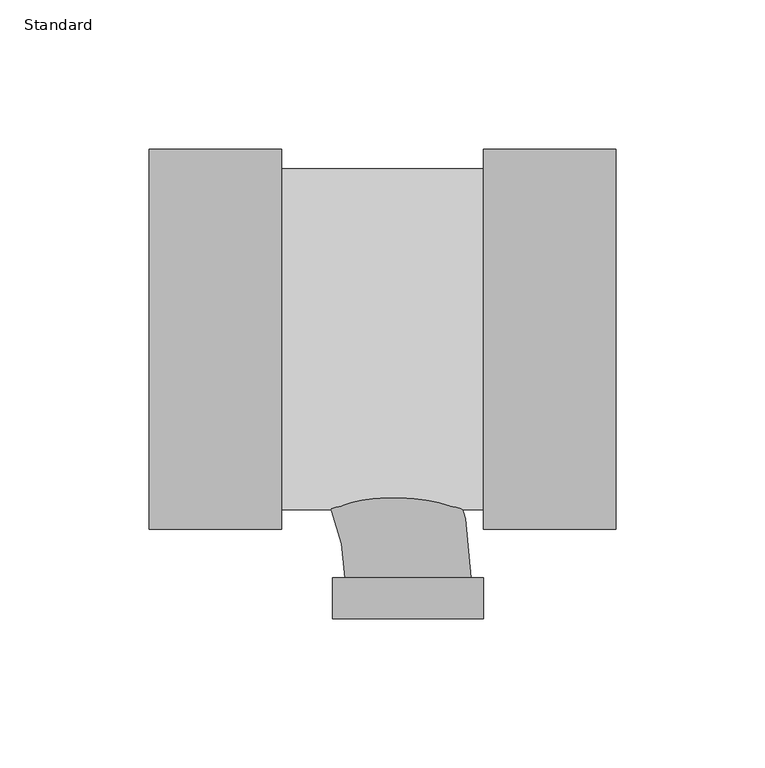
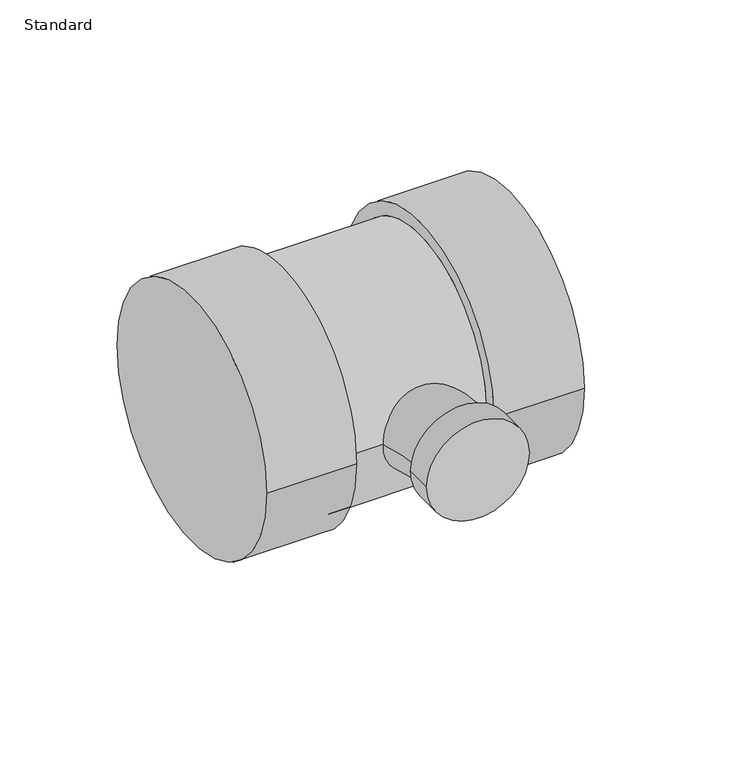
"""IFC4 building model written with IfcOpenShell, lengths in millimetres: pipe fitting geometry, EG-RCAN Té sanitaire de réduction - PVC - Nom. 40 - DWV : Standard."""

from ifc_helpers import new_model, si_unit, point, frame, origin, place, context, project, spatial, circle_curve, ellipse_curve, trimmed, source, transform, mapped, element, save
from ifc_brep_helpers import plane_surface, cylinder_surface, revolved_surface, advanced_brep


def standard_705f3cdf(model_context):
    return source(origin(), model_context, "Body", "AdvancedBrep", [
        advanced_brep(
        [(25.2670862, -63.754, 0.0), (25.2670862, 63.754, 0.0), (25.2670862, -57.15, 0.0), (25.2670862, 57.15, 0.0), (69.7170862, -63.754, 0.0), (69.7170862, 63.754, 0.0), (-42.4599062, 57.15, 0.0), (-42.4599062, -57.15, 0.0), (-86.9099063, -63.754, 0.0), (-86.9099062, 63.754, 0.0), (-42.4599063, -63.754, 0.0), (-42.4599062, 63.754, 0.0)],
        [
            (0, 1, circle_curve(frame((25.2670862, 0.0, 0.0), z_axis=(-1.0, 0.0, 0.0), x_axis=(0.0, 1.0, 0.0)), 63.754)),
            (1, 0, circle_curve(frame((25.2670862, 0.0, 0.0), z_axis=(-1.0, 0.0, 0.0), x_axis=(0.0, 1.0, 0.0)), 63.754)),
            (2, 3, circle_curve(frame((25.2670862, 0.0, 0.0), z_axis=(1.0, 0.0, 0.0), x_axis=(0.0, 0.0, -1.0)), 57.15)),
            (3, 2, circle_curve(frame((25.2670862, 0.0, 0.0), z_axis=(1.0, 0.0, 0.0), x_axis=(0.0, 0.0, 1.0)), 57.15)),
            (4, 5, circle_curve(frame((69.7170862, 0.0, 0.0), z_axis=(1.0, 0.0, 0.0), x_axis=(0.0, 1.0, 0.0)), 63.754)),
            (5, 4, circle_curve(frame((69.7170862, 0.0, 0.0), z_axis=(1.0, 0.0, 0.0), x_axis=(0.0, 1.0, 0.0)), 63.754)),
            (0, 4),
            (5, 1),
            (6, 3),
            (2, 7),
            (7, 6, circle_curve(frame((-42.4599063, 0.0, 0.0), z_axis=(1.0, 0.0, 0.0), x_axis=(0.0, 0.0, -1.0)), 57.15)),
            (6, 7, circle_curve(frame((-42.4599062, 0.0, 0.0), z_axis=(1.0, 0.0, 0.0), x_axis=(0.0, 0.0, 1.0)), 57.15)),
            (8, 9, circle_curve(frame((-86.9099062, 0.0, 0.0), z_axis=(-1.0, 0.0, 0.0), x_axis=(0.0, 1.0, 0.0)), 63.754)),
            (9, 8, circle_curve(frame((-86.9099062, 0.0, 0.0), z_axis=(-1.0, 0.0, 0.0), x_axis=(0.0, 1.0, 0.0)), 63.754)),
            (10, 11, circle_curve(frame((-42.4599062, 0.0, 0.0), z_axis=(1.0, 0.0, 0.0), x_axis=(0.0, 1.0, 0.0)), 63.754)),
            (11, 10, circle_curve(frame((-42.4599062, 0.0, 0.0), z_axis=(1.0, 0.0, 0.0), x_axis=(0.0, 1.0, 0.0)), 63.754)),
            (8, 10),
            (11, 9),
        ],
        [
            plane_surface(frame((25.2670862, 0.0, 0.0), z_axis=(-1.0, 0.0, 0.0), x_axis=(0.0, 0.0, 1.0))),
            plane_surface(frame((69.7170862, 0.0, 0.0), z_axis=(1.0, 0.0, 0.0), x_axis=(0.0, 0.0, 1.0))),
            cylinder_surface(frame((25.2670862, 0.0, 0.0), z_axis=(-1.0, 0.0, 0.0), x_axis=(0.0, 1.0, 0.0)), 63.754),
            cylinder_surface(frame((-42.4599062, 0.0, 0.0), z_axis=(1.0, 0.0, 0.0), x_axis=(0.0, 0.0, -1.0)), 57.15),
            cylinder_surface(frame((-42.4599062, 0.0, 0.0), z_axis=(1.0, 0.0, 0.0), x_axis=(0.0, 0.0, 1.0)), 57.15),
            plane_surface(frame((-86.9099062, 0.0, 0.0), z_axis=(-1.0, 0.0, 0.0), x_axis=(0.0, 0.0, 1.0))),
            plane_surface(frame((-42.4599062, 0.0, 0.0), z_axis=(1.0, 0.0, 0.0), x_axis=(0.0, 0.0, 1.0))),
            cylinder_surface(frame((-86.9099062, 0.0, 0.0), z_axis=(-1.0, 0.0, 0.0), x_axis=(0.0, 1.0, 0.0)), 63.754),
        ],
        [
            (0, [[1, 2], [3, 4]]),
            (1, [[5, 6]]),
            (2, [[-1, 7, -6, 8]]),
            (2, [[-2, -8, -5, -7]]),
            (3, [[9, -3, 10, 11]]),
            (4, [[-9, 12, -10, -4]]),
            (5, [[13, 14]]),
            (6, [[15, 16], [-11, -12]]),
            (7, [[-13, 17, -16, 18]]),
            (7, [[-14, -18, -15, -17]]),
        ],
    ),
        advanced_brep(
        [(-25.2671326, -80.0276489, 0.0), (25.2670862, -80.0276636, 0.0), (21.2040393, -80.0276624, 0.0), (-21.2040857, -80.0276501, 0.0), (-25.2671366, -93.7679614, 0.0), (25.2670822, -93.7679761, 0.0), (-80.0276562, -21.2040625, 0.0), (-80.0276562, 21.2040625, 0.0)],
        [
            (0, 1, circle_curve(frame((-2.32e-05, -80.0276563, 0.0), z_axis=(2.899737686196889e-07, 0.999999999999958, 0.0), x_axis=(0.999999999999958, -2.899737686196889e-07, 0.0)), 25.2671094)),
            (1, 0, circle_curve(frame((-2.32e-05, -80.0276563, 0.0), z_axis=(2.899737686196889e-07, 0.999999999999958, 0.0), x_axis=(0.999999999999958, -2.899737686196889e-07, 0.0)), 25.2671094)),
            (2, 3, circle_curve(frame((-2.32e-05, -80.0276563, 0.0), z_axis=(-2.8997376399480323e-07, -0.9999999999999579, 0.0), x_axis=(0.9999999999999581, -2.899737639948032e-07, 0.0)), 21.2040625)),
            (3, 2, circle_curve(frame((-2.32e-05, -80.0276563, 0.0), z_axis=(-2.8997376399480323e-07, -0.9999999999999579, 0.0), x_axis=(0.9999999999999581, -2.899737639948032e-07, 0.0)), 21.2040625)),
            (4, 5, circle_curve(frame((-2.72e-05, -93.7679688, 0.0), z_axis=(-2.899737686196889e-07, -0.999999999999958, 0.0), x_axis=(0.999999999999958, -2.899737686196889e-07, 0.0)), 25.2671094)),
            (5, 4, circle_curve(frame((-2.72e-05, -93.7679688, 0.0), z_axis=(-2.899737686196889e-07, -0.999999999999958, 0.0), x_axis=(0.999999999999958, -2.899737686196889e-07, 0.0)), 25.2671094)),
            (0, 4),
            (5, 1),
            (6, 7, circle_curve(frame((-80.0276562, 0.0, 0.0), z_axis=(-1.0000000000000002, 0.0, 0.0), x_axis=(0.0, 1.0, 0.0)), 21.2040625)),
            (7, 6, circle_curve(frame((-80.0276562, 0.0, 0.0), z_axis=(-1.0000000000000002, 0.0, 0.0), x_axis=(0.0, 1.0, 0.0)), 21.2040625)),
            (6, 3, circle_curve(frame((-80.0276562, -80.027633, 0.0), z_axis=(0.0, 0.0, -1.0), x_axis=(0.0, 1.0, 0.0)), 58.8235705)),
            (2, 7, circle_curve(frame((-80.0276562, -80.027633, 0.0), z_axis=(0.0, 0.0, 1.0), x_axis=(0.0, 1.0, 0.0)), 101.2316955)),
        ],
        [
            plane_surface(frame((-2.32e-05, -80.0276563, 0.0), z_axis=(2.899737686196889e-07, 0.999999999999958, 0.0), x_axis=(0.0, 0.0, 1.0))),
            plane_surface(frame((-2.72e-05, -93.7679688, 0.0), z_axis=(-2.899737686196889e-07, -0.999999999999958, 0.0), x_axis=(0.0, 0.0, 1.0))),
            cylinder_surface(frame((-2.32e-05, -80.0276563, 0.0), z_axis=(2.899737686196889e-07, 0.999999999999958, 0.0), x_axis=(0.999999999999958, -2.899737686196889e-07, 0.0)), 25.2671094),
            plane_surface(frame((-80.0276562, 0.0, 0.0), z_axis=(-1.0, 0.0, 0.0), x_axis=(0.0, 0.0, 1.0))),
            revolved_surface(trimmed(ellipse_curve(frame((-80.0276562, 0.0, 0.0), z_axis=(-1.0000000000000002, 0.0, 0.0), x_axis=(0.0, 1.0, 0.0)), 21.2040625, 21.2040625), [point((-80.0276562, -21.2040625, 0.0))], [point((-80.0276562, 21.2040625, 0.0))], True, "CARTESIAN"), (-80.0276562, -80.027633, 0.0), (0.0, 0.0, -1.0000000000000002)),
            revolved_surface(trimmed(ellipse_curve(frame((-80.0276562, 0.0, 0.0), z_axis=(-1.0000000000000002, 0.0, 0.0), x_axis=(0.0, 1.0, 0.0)), 21.2040625, 21.2040625), [point((-80.0276562, 21.2040625, 0.0))], [point((-80.0276562, -21.2040625, 0.0))], True, "CARTESIAN"), (-80.0276562, -80.027633, 0.0), (0.0, 0.0, -1.0000000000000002)),
        ],
        [
            (0, [[1, 2], [3, 4]]),
            (1, [[5, 6]]),
            (2, [[-1, 7, -6, 8]]),
            (2, [[-2, -8, -5, -7]]),
            (3, [[9, 10]]),
            (4, [[-9, 11, -3, 12]]),
            (5, [[-10, -12, -4, -11]]),
        ],
    ),
    ])


if __name__ == "__main__":
    model = new_model("IFC4")
    model_context = context("Model", 3, world=origin())
    ifc_project = project(units=[si_unit("LENGTHUNIT", "METRE", prefix="MILLI")], contexts=[model_context])
    site = spatial("IfcSite", under=ifc_project)
    building = spatial("IfcBuilding", under=site)
    placement = place(None, origin())
    standard_shape = standard_705f3cdf(model_context)
    element("IfcPipeFitting", 1, ObjectType="EG-RCAN Té sanitaire de réduction - PVC - Nom. 40 - DWV : Standard", at=placement, inside=building, context=model_context, shape_type="MappedRepresentation", body=[
        mapped(standard_shape, transform((0.0, 0.0, 0.0), x_axis=(1.0, 0.0, 0.0), y_axis=(0.0, 1.0, 0.0), z_axis=(0.0, 0.0, 1.0))),
    ])
    save(model, "model.ifc")
